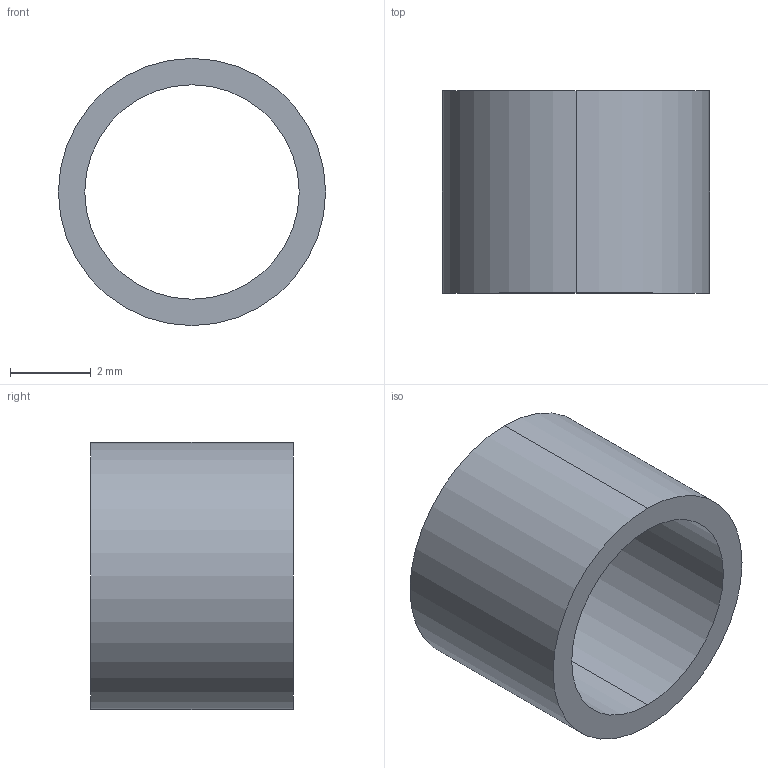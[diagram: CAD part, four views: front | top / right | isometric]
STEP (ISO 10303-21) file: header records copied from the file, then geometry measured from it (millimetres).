
FILE_DESCRIPTION (( 'STEP AP203' ), '1' );
FILE_NAME ('VWheelSpacer.step', '2026-07-10T19:43:48', ( '' ), ( '' ), 'SwSTEP 2.0', 'SolidWorks 2024', '' );
FILE_SCHEMA (( 'CONFIG_CONTROL_DESIGN' ));
Length unit declared in the file: millimetre
Products named in the file (1): VWheelSpacer
Bounding box: 6.6 x 5 x 6.6 mm (x, y, z)
Volume: 60.8 mm3; surface area: 211.2 mm2
Topology: 1 solids, 1 shells, 6 faces, 12 edges, 8 vertices
Faces by surface type: cylinder 4, plane 2
Entity records: 245 total; most frequent: DIRECTION 34, CARTESIAN_POINT 27, ORIENTED_EDGE 24, AXIS2_PLACEMENT_3D 15, EDGE_CURVE 12, EDGE_LOOP 8, PERSON_AND_ORGANIZATION 8, CIRCLE 8
